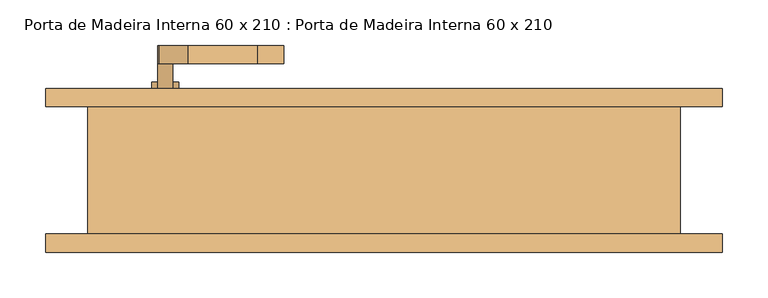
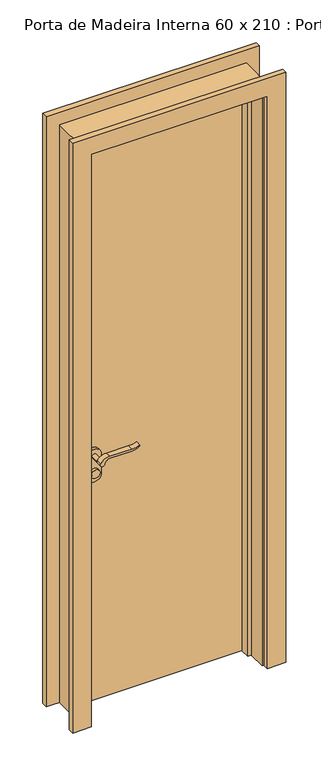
"""IFC4 building model written with IfcOpenShell, lengths in millimetres: door geometry, Porta de Madeira Interna 60 x 210 : Porta de Madeira Interna 60 x 210."""

from ifc_helpers import new_model, si_unit, point, frame, frame_2d, origin, origin_with_axes, place, context, project, spatial, polyline, circle_curve, trimmed, segment, composite_curve, outline, extrude, faceted_brep, source, transform, mapped, element, save


def porta_de_madeira_interna_60_x_210_porta_de_madeira_interna_6d4bee1b(model_context):
    return source(origin(), model_context, "Body", "SolidModel", [
        extrude(outline(composite_curve([segment(trimmed(circle_curve(frame_2d((854.4, -240.0)), 15.0), [point((854.4, -225.0))], [point((854.4, -255.0))], False, "CARTESIAN"), True, "CONTINUOUS"), segment(trimmed(circle_curve(frame_2d((854.4, -240.0)), 15.0), [point((854.4, -255.0))], [point((854.4, -225.0))], False, "CARTESIAN"), True, "CONTINUOUS")], self_intersect=False)), frame((0.0, -6.025, 0.0), z_axis=(0.0, 1.0, 0.0), x_axis=(0.0, 0.0, 1.0)), (0.0, 0.0, 1.0), 10.0),
        extrude(outline(composite_curve([segment(trimmed(circle_curve(frame_2d((854.4, -240.0)), 15.0), [point((854.4, -225.0))], [point((854.4, -255.0))], False, "CARTESIAN"), True, "CONTINUOUS"), segment(trimmed(circle_curve(frame_2d((854.4, -240.0)), 15.0), [point((854.4, -255.0))], [point((854.4, -225.0))], False, "CARTESIAN"), True, "CONTINUOUS")], self_intersect=False)), frame((0.0, 83.975, 0.0), z_axis=(0.0, 1.0, 0.0), x_axis=(0.0, 0.0, 1.0)), (0.0, 0.0, 1.0), 10.0),
        extrude(outline(composite_curve([segment(trimmed(circle_curve(frame_2d((914.4, -240.0)), 8.0), [point((919.0523287, -246.5081363))], [point((914.4, -232.0))], False, "CARTESIAN"), True, "CONTINUOUS"), segment(trimmed(circle_curve(frame_2d((909.2738613, -214.6138099)), 18.1261387), [point((914.4, -232.0))], [point((927.4, -214.6138099))], True, "CARTESIAN"), True, "CONTINUOUS"), segment(polyline([(927.4, -214.6138099), (927.4, -138.3564091)]), True, "CONTINUOUS"), segment(trimmed(circle_curve(frame_2d((986.6709207, -141.9396612)), 59.3791355), [point((927.4, -138.3564091))], [point((936.6135558, -110.0))], False, "CARTESIAN"), True, "CONTINUOUS"), segment(polyline([(936.6135558, -110.0), (939.4, -110.0)]), True, "CONTINUOUS"), segment(trimmed(circle_curve(frame_2d((1017.6850638, -138.4227909)), 83.2850902), [point((939.4, -110.0))], [point((934.4, -138.3564091))], True, "CARTESIAN"), True, "CONTINUOUS"), segment(polyline([(934.4, -138.3564091), (934.4, -214.6325667)]), True, "CONTINUOUS"), segment(trimmed(circle_curve(frame_2d((897.1555521, -216.3324871)), 37.2832219), [point((934.4, -214.6325667))], [point((919.0523287, -246.5081363))], False, "CARTESIAN"), True, "CONTINUOUS")], self_intersect=False)), frame((0.0, -46.025, 0.0), z_axis=(0.0, 1.0, 0.0), x_axis=(0.0, 0.0, 1.0)), (0.0, 0.0, 1.0), 20.0),
        extrude(outline(composite_curve([segment(trimmed(circle_curve(frame_2d((909.2738682, -214.6138122)), 18.1261318), [point((914.3999903, -232.0))], [point((927.4, -214.6138122))], True, "CARTESIAN"), True, "CONTINUOUS"), segment(polyline([(927.4, -214.6138122), (927.4, -138.3564091)]), True, "CONTINUOUS"), segment(trimmed(circle_curve(frame_2d((986.6709207, -141.9396612)), 59.3791355), [point((927.4, -138.3564091))], [point((936.6135558, -110.0))], False, "CARTESIAN"), True, "CONTINUOUS"), segment(polyline([(936.6135558, -110.0), (939.4, -110.0)]), True, "CONTINUOUS"), segment(trimmed(circle_curve(frame_2d((1017.6850638, -138.4227909)), 83.2850902), [point((939.4, -110.0))], [point((934.4, -138.3564091))], True, "CARTESIAN"), True, "CONTINUOUS"), segment(polyline([(934.4, -138.3564091), (934.4, -214.6325667)]), True, "CONTINUOUS"), segment(trimmed(circle_curve(frame_2d((897.1555521, -216.3324871)), 37.2832219), [point((934.4, -214.6325667))], [point((919.0523287, -246.5081363))], False, "CARTESIAN"), True, "CONTINUOUS"), segment(trimmed(circle_curve(frame_2d((914.4, -240.0)), 8.0), [point((919.0523287, -246.5081363))], [point((914.3999903, -232.0))], False, "CARTESIAN"), True, "CONTINUOUS")], self_intersect=False)), frame((0.0, 113.975, 0.0), z_axis=(0.0, 1.0, 0.0), x_axis=(0.0, 0.0, 1.0)), (0.0, 0.0, 1.0), 20.0),
        extrude(outline(composite_curve([segment(trimmed(circle_curve(frame_2d((914.4, -240.0)), 8.0), [point((914.4, -232.0))], [point((914.4, -248.0))], False, "CARTESIAN"), True, "CONTINUOUS"), segment(trimmed(circle_curve(frame_2d((914.4, -240.0)), 8.0), [point((914.4, -248.0))], [point((914.4, -232.0))], False, "CARTESIAN"), True, "CONTINUOUS")], self_intersect=False)), frame((0.0, -26.025, 0.0), z_axis=(0.0, 1.0, 0.0), x_axis=(0.0, 0.0, 1.0)), (0.0, 0.0, 1.0), 30.0),
        extrude(outline(composite_curve([segment(trimmed(circle_curve(frame_2d((914.4, -240.0)), 8.0), [point((914.4, -232.0))], [point((914.4, -248.0))], False, "CARTESIAN"), True, "CONTINUOUS"), segment(trimmed(circle_curve(frame_2d((914.4, -240.0)), 8.0), [point((914.4, -248.0))], [point((914.4, -232.0))], False, "CARTESIAN"), True, "CONTINUOUS")], self_intersect=False)), frame((0.0, 83.975, 0.0), z_axis=(0.0, 1.0, 0.0), x_axis=(0.0, 0.0, 1.0)), (0.0, 0.0, 1.0), 30.0),
        extrude(outline(composite_curve([segment(trimmed(circle_curve(frame_2d((844.4, -240.0)), 25.0), [point((844.4, -265.0))], [point((844.4, -215.0))], False, "CARTESIAN"), True, "CONTINUOUS"), segment(polyline([(844.4, -215.0), (914.4, -215.0)]), True, "CONTINUOUS"), segment(trimmed(circle_curve(frame_2d((914.4, -240.0)), 25.0), [point((914.4, -215.0))], [point((914.4, -265.0))], False, "CARTESIAN"), True, "CONTINUOUS"), segment(polyline([(914.4, -265.0), (844.4, -265.0)]), True, "CONTINUOUS")], self_intersect=False)), frame((0.0, 3.975, 0.0), z_axis=(0.0, 1.0, 0.0), x_axis=(0.0, 0.0, 1.0)), (0.0, 0.0, 1.0), 10.0),
        extrude(outline(composite_curve([segment(trimmed(circle_curve(frame_2d((844.4, -240.0)), 25.0), [point((844.4, -265.0))], [point((844.4, -215.0))], False, "CARTESIAN"), True, "CONTINUOUS"), segment(polyline([(844.4, -215.0), (914.4, -215.0)]), True, "CONTINUOUS"), segment(trimmed(circle_curve(frame_2d((914.4, -240.0)), 25.0), [point((914.4, -215.0))], [point((914.4, -265.0))], False, "CARTESIAN"), True, "CONTINUOUS"), segment(polyline([(914.4, -265.0), (844.4, -265.0)]), True, "CONTINUOUS")], self_intersect=False)), frame((0.0, 73.975, 0.0), z_axis=(0.0, 1.0, 0.0), x_axis=(0.0, 0.0, 1.0)), (0.0, 0.0, 1.0), 10.0),
        extrude(outline(polyline([(300.0, 26.825), (-300.0, 26.825), (-300.0, 66.825), (300.0, 66.825), (300.0, 26.825)])), origin_with_axes(), (0.0, 0.0, 1.0), 2100.0),
        faceted_brep([(325.0, 66.825, 0.0), (325.0, -73.175, 0.0), (300.0, -73.175, 0.0), (300.0, -8.1, 0.0), (287.3, -8.1, 0.0), (287.3, 26.825, 0.0), (300.0, 26.825, 0.0), (300.0, 66.825, 0.0), (325.0, 66.825, 2125.0), (325.0, -73.175, 2125.0), (-325.0, -73.175, 2125.0), (-325.0, -73.175, 0.0), (-300.0, -73.175, 0.0), (-300.0, -73.175, 2100.0), (300.0, -73.175, 2100.0), (300.0, -8.1, 2100.0), (-300.0, -8.1, 2100.0), (-300.0, -8.1, 0.0), (-287.3, -8.1, 0.0), (-287.3, -8.1, 2087.3), (287.3, -8.1, 2087.3), (287.3, 26.825, 2087.3), (-287.3, 26.825, 2087.3), (-287.3, 26.825, 0.0), (-300.0, 26.825, 0.0), (-300.0, 26.825, 2100.0), (300.0, 26.825, 2100.0), (300.0, 66.825, 2100.0), (-300.0, 66.825, 2100.0), (-300.0, 66.825, 0.0), (-325.0, 66.825, 0.0), (-325.0, 66.825, 2125.0)], [[[0, 1, 2, 3, 4, 5, 6, 7]], [[1, 0, 8, 9]], [[2, 1, 9, 10, 11, 12, 13, 14]], [[3, 2, 14, 15]], [[4, 3, 15, 16, 17, 18, 19, 20]], [[5, 4, 20, 21]], [[6, 5, 21, 22, 23, 24, 25, 26]], [[7, 6, 26, 27]], [[0, 7, 27, 28, 29, 30, 31, 8]], [[9, 8, 31, 10]], [[15, 14, 13, 16]], [[21, 20, 19, 22]], [[27, 26, 25, 28]], [[30, 29, 24, 23, 18, 17, 12, 11]], [[10, 31, 30, 11]], [[16, 13, 12, 17]], [[22, 19, 18, 23]], [[28, 25, 24, 29]]]),
        extrude(outline(polyline([(0.0, 306.35), (0.0, 371.35), (2171.35, 371.35), (2171.35, -371.35), (0.0, -371.35), (0.0, -306.35), (2106.35, -306.35), (2106.35, 306.35), (0.0, 306.35)])), frame((0.0, -93.175, 0.0), z_axis=(0.0, 1.0, 0.0), x_axis=(0.0, 0.0, 1.0)), (0.0, 0.0, 1.0), 20.0),
        extrude(outline(polyline([(0.0, 306.35), (0.0, 371.35), (2171.35, 371.35), (2171.35, -371.35), (0.0, -371.35), (0.0, -306.35), (2106.35, -306.35), (2106.35, 306.35), (0.0, 306.35)])), frame((0.0, 66.825, 0.0), z_axis=(0.0, 1.0, 0.0), x_axis=(0.0, 0.0, 1.0)), (0.0, 0.0, 1.0), 20.0),
    ])


if __name__ == "__main__":
    model = new_model("IFC4")
    model_context = context("Model", 3, world=origin())
    ifc_project = project(units=[si_unit("LENGTHUNIT", "METRE", prefix="MILLI")], contexts=[model_context])
    site = spatial("IfcSite", under=ifc_project)
    building = spatial("IfcBuilding", under=site)
    placement = place(None, origin())
    porta_de_madeira_interna_60_x_210_porta_de_madeira_interna_shape = porta_de_madeira_interna_60_x_210_porta_de_madeira_interna_6d4bee1b(model_context)
    element("IfcDoor", 1, ObjectType="Porta de Madeira Interna 60 x 210 : Porta de Madeira Interna 60 x 210", at=placement, inside=building, context=model_context, shape_type="MappedRepresentation", body=[
        mapped(porta_de_madeira_interna_60_x_210_porta_de_madeira_interna_shape, transform((0.0, 0.0, 0.0), x_axis=(1.0, 0.0, 0.0), y_axis=(0.0, 1.0, 0.0), z_axis=(0.0, 0.0, 1.0))),
    ])
    save(model, "model.ifc")
